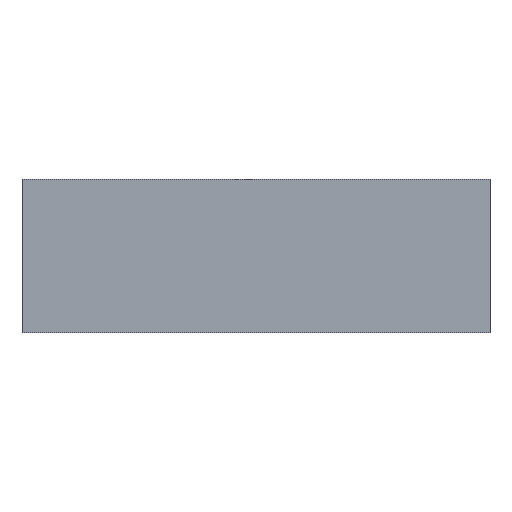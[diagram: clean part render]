
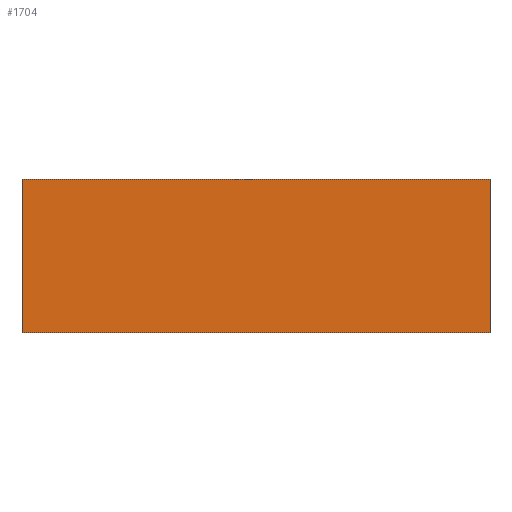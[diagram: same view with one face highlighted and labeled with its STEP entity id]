
A CAD part, front view. The second image highlights one B-rep face of the part: STEP entity #1704.
In plain terms, the highlighted planar face has unit normal (0, -1, 0).
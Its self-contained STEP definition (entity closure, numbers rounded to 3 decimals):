
#1 = CARTESIAN_POINT ( 'NONE',  ( 0., 0., 10. ) ) ;
#111 = CARTESIAN_POINT ( 'NONE',  ( 32.079, 0., 10. ) ) ;
#146 = DIRECTION ( 'NONE',  ( -1., 0., 0. ) ) ;
#344 = VERTEX_POINT ( 'NONE', #478 ) ;
#463 = VECTOR ( 'NONE', #1239, 1000. ) ;
#478 = CARTESIAN_POINT ( 'NONE',  ( 32.079, 0., 0. ) ) ;
#551 = DIRECTION ( 'NONE',  ( 0., 0., -1. ) ) ;
#612 = EDGE_CURVE ( 'NONE', #1525, #1082, #898, .T. ) ;
#696 = ORIENTED_EDGE ( 'NONE', *, *, #612, .T. ) ;
#749 = CARTESIAN_POINT ( 'NONE',  ( 1.634, 0., 0. ) ) ;
#813 = EDGE_CURVE ( 'NONE', #1082, #1906, #1560, .T. ) ;
#823 = DIRECTION ( 'NONE',  ( -1., 0., 0. ) ) ;
#824 = EDGE_CURVE ( 'NONE', #344, #1906, #941, .T. ) ;
#879 = ORIENTED_EDGE ( 'NONE', *, *, #824, .F. ) ;
#898 = LINE ( 'NONE', #1, #1753 ) ;
#931 = EDGE_LOOP ( 'NONE', ( #879, #1247, #696, #1440 ) ) ;
#941 = LINE ( 'NONE', #1671, #1203 ) ;
#965 = VECTOR ( 'NONE', #551, 1000. ) ;
#1011 = CARTESIAN_POINT ( 'NONE',  ( 32.079, 0., 10. ) ) ;
#1030 = PLANE ( 'NONE',  #1895 ) ;
#1082 = VERTEX_POINT ( 'NONE', #1190 ) ;
#1184 = DIRECTION ( 'NONE',  ( 0., -1., 0. ) ) ;
#1190 = CARTESIAN_POINT ( 'NONE',  ( 1.634, 0., 10. ) ) ;
#1203 = VECTOR ( 'NONE', #823, 1000. ) ;
#1239 = DIRECTION ( 'NONE',  ( 0., 0., -1. ) ) ;
#1247 = ORIENTED_EDGE ( 'NONE', *, *, #1755, .F. ) ;
#1260 = CARTESIAN_POINT ( 'NONE',  ( 1.634, 0., 10. ) ) ;
#1321 = CARTESIAN_POINT ( 'NONE',  ( 0., 0., 10. ) ) ;
#1440 = ORIENTED_EDGE ( 'NONE', *, *, #813, .T. ) ;
#1525 = VERTEX_POINT ( 'NONE', #111 ) ;
#1560 = LINE ( 'NONE', #1260, #463 ) ;
#1671 = CARTESIAN_POINT ( 'NONE',  ( 0., 0., 0. ) ) ;
#1704 = ADVANCED_FACE ( 'NONE', ( #1751 ), #1030, .T. ) ;
#1751 = FACE_OUTER_BOUND ( 'NONE', #931, .T. ) ;
#1753 = VECTOR ( 'NONE', #146, 1000. ) ;
#1755 = EDGE_CURVE ( 'NONE', #1525, #344, #1883, .T. ) ;
#1883 = LINE ( 'NONE', #1011, #965 ) ;
#1895 = AXIS2_PLACEMENT_3D ( 'NONE', #1321, #1184, #1915 ) ;
#1906 = VERTEX_POINT ( 'NONE', #749 ) ;
#1915 = DIRECTION ( 'NONE',  ( 0., 0., -1. ) ) ;
